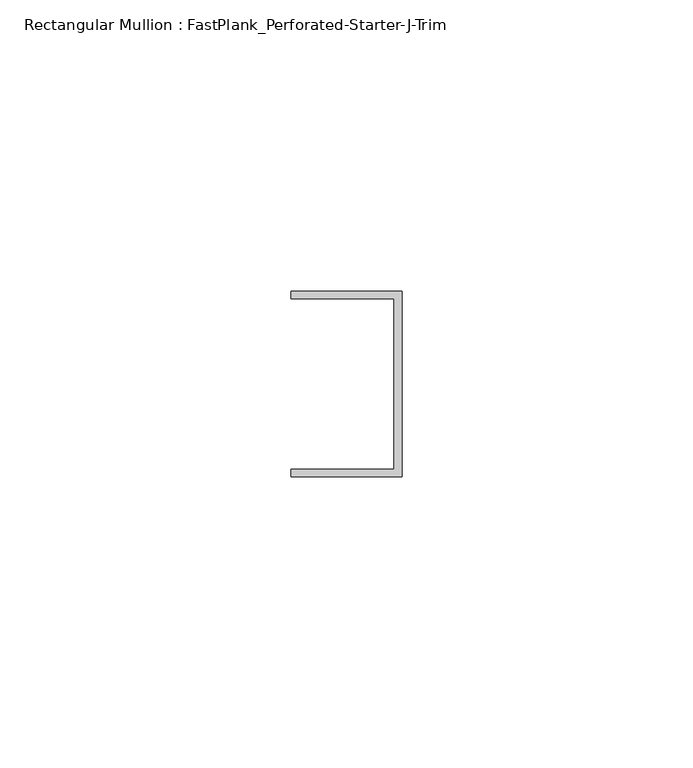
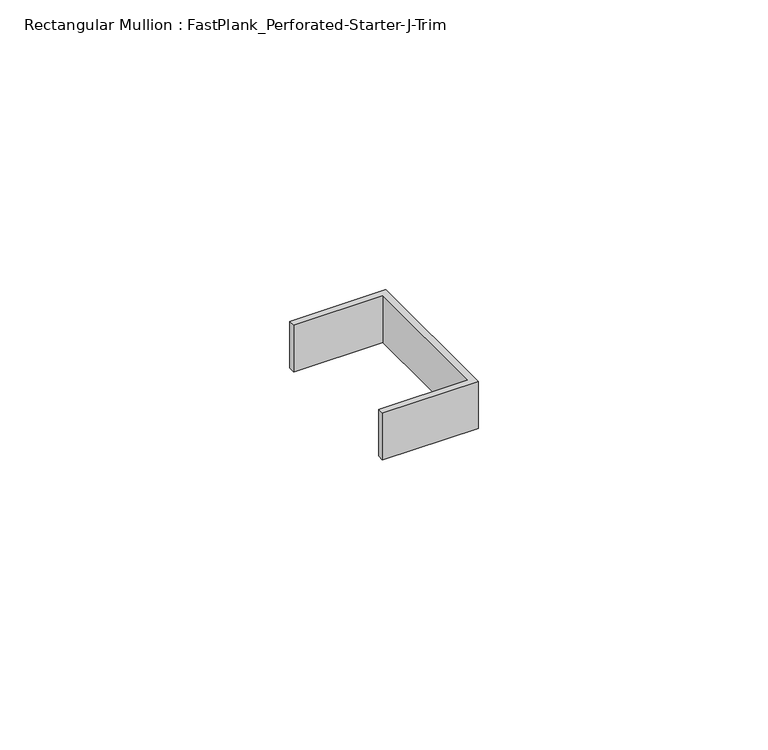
"""IFC4 building model written with IfcOpenShell, lengths in millimetres: member geometry, Rectangular Mullion : FastPlank_Perforated-Starter-J-Trim."""

from ifc_helpers import new_model, si_unit, frame, origin, place, context, project, spatial, polyline, outline, extrude, source, transform, mapped, element, save


def rectangular_mullion_fastplank_perforated_starter_j_trim_2c1f9283(model_context):
    return source(origin(), model_context, "Body", "SweptSolid", [
        extrude(outline(polyline([(0.0, 10.2620691), (0.0, -21.6412691), (-19.05, -21.6412691), (-19.05, -20.3412717), (-1.3000189, -20.3412717), (-1.3000189, 8.9620717), (-19.05, 8.9620717), (-19.05, 10.2620691), (0.0, 10.2620691)])), frame((0.0, 0.0, -9.8355718), z_axis=(0.0, 0.0, 1.0), x_axis=(1.0, 0.0, 0.0)), (0.0, 0.0, 1.0), 9.8355718),
    ])


if __name__ == "__main__":
    model = new_model("IFC4")
    model_context = context("Model", 3, world=origin())
    ifc_project = project(units=[si_unit("LENGTHUNIT", "METRE", prefix="MILLI")], contexts=[model_context])
    site = spatial("IfcSite", under=ifc_project)
    building = spatial("IfcBuilding", under=site)
    placement = place(None, origin())
    rectangular_mullion_fastplank_perforated_starter_j_trim_shape = rectangular_mullion_fastplank_perforated_starter_j_trim_2c1f9283(model_context)
    element("IfcMember", 1, ObjectType="Rectangular Mullion : FastPlank_Perforated-Starter-J-Trim", at=placement, inside=building, context=model_context, shape_type="MappedRepresentation", body=[
        mapped(rectangular_mullion_fastplank_perforated_starter_j_trim_shape, transform((0.0, 0.0, 0.0), x_axis=(1.0, 0.0, 0.0), y_axis=(0.0, 1.0, 0.0), z_axis=(0.0, 0.0, 1.0))),
    ])
    save(model, "model.ifc")
